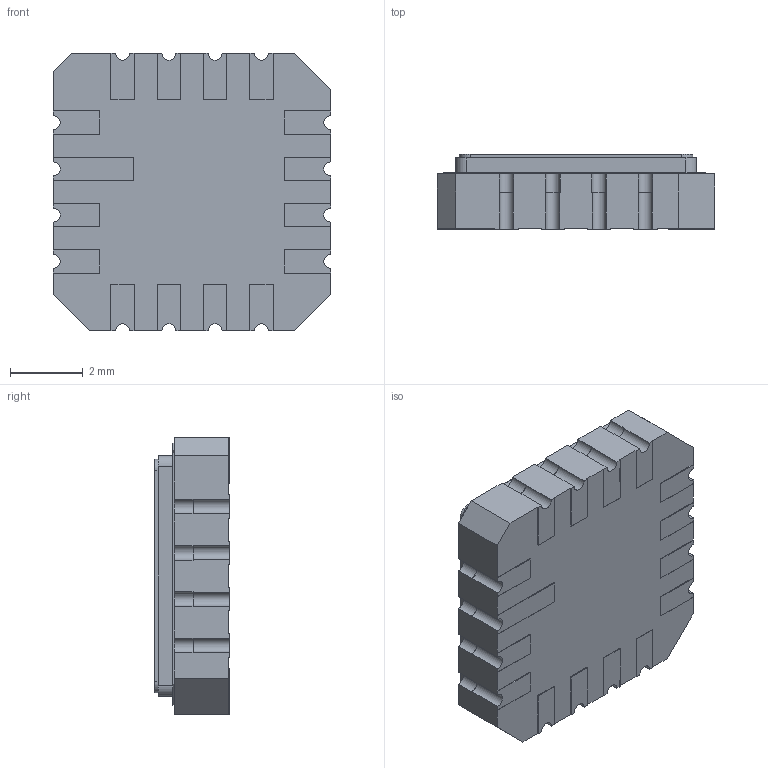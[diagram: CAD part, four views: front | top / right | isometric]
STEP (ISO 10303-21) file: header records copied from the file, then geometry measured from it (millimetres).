
FILE_DESCRIPTION(('STEP AP214'), '1');
FILE_NAME('1273HA015', '', ('UNSPECIFIED'), ('UNSPECIFIED'), 'ASCON STEP Converter 1.6', 'ASCON Math Kernel', '');
FILE_SCHEMA(('AUTOMOTIVE_DESIGN { 1 0 10303 214 3 1 1}'));
Length unit declared in the file: millimetre
Assembly tree (4 placements, depth 3):
  (unnamed)
    (unnamed)
      (unnamed)
      (unnamed)
    (unnamed)
Bounding box: 7.6 x 2.06 x 7.6 mm (x, y, z)
Volume: 74.1 mm3; surface area: 313.7 mm2
Topology: 3 solids, 3 shells, 1123 faces, 3297 edges, 2198 vertices
Faces by surface type: plane 972, cylinder 141, extrusion 10
Full cylindrical faces by diameter (mm): 0.5 x1
Entity records: 46375 total; most frequent: CARTESIAN_POINT 7006, ORIENTED_EDGE 6592, DIRECTION 5804, EDGE_CURVE 3296, VECTOR 3004, LINE 2994, VERTEX_POINT 2198, AXIS2_PLACEMENT_3D 1400
